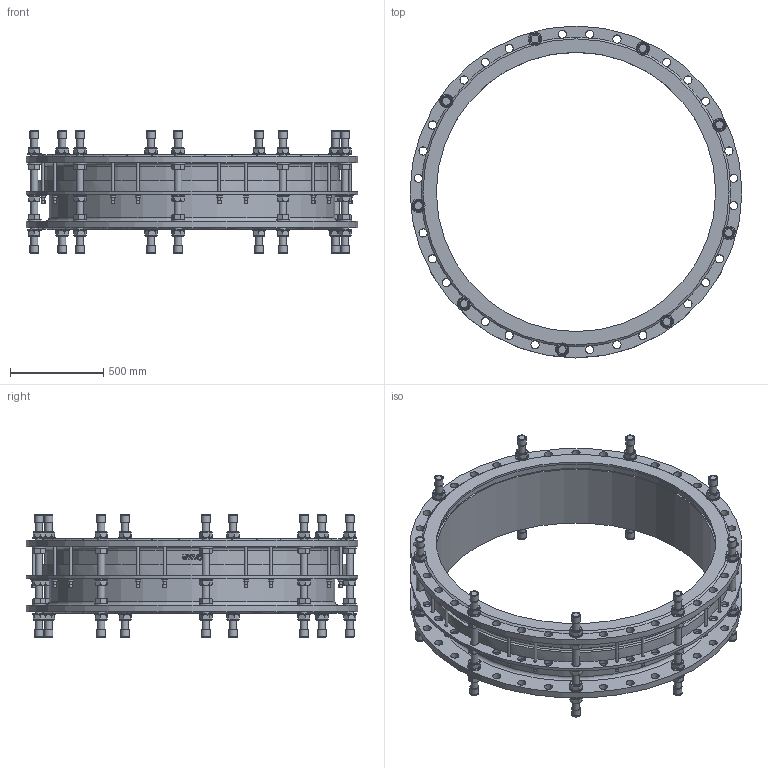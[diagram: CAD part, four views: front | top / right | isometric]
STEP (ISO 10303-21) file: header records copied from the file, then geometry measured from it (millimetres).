
FILE_DESCRIPTION(('STEP AP242'), '1');
FILE_NAME('Ìîíòàæíàÿ âñòàâêà', '', ('UNSPECIFIED'), ('UNSPECIFIED'), 'C3D Converter', 'C3D Toolkit', '');
FILE_SCHEMA(('AP242_MANAGED_MODEL_BASED_3D_ENGINEERING_MIM_LF { 1 0 10303 442 1 1 4 }'));
Length unit declared in the file: millimetre
Products named in the file (13): ШМ.М16.310; ШМ.М16.206
Assembly tree (193 placements, depth 2):
  (unnamed)
    (unnamed)
    (unnamed)
    (unnamed)
    (unnamed)
    (unnamed)  x45
    (unnamed)  x45
    ШМ.М16.310  x9
    (unnamed)  x18
    (unnamed)  x18
    (unnamed)  x18
    ШМ.М16.206  x18
    (unnamed)  x18
Bounding box: 1782 x 1782 x 657.8 mm (x, y, z)
Volume: 120406696.5 mm3; surface area: 12936160.8 mm2
Topology: 197 solids, 197 shells, 1672 faces, 3717 edges, 2392 vertices
Faces by surface type: plane 857, cylinder 454, cone 312, torus 38, extrusion 11
Full cylindrical faces by diameter (mm): 16 x72, 17 x18, 18 x18, 19.2 x18, 30 x18, 33.221 x1, 39 x72, 40 x45, 44 x108, 46.8 x18, 72 x45, 1500 x2, 1534 x2, 1551 x2, 1585 x1, 1602 x1, 1622 x1, 1656 x1, 1782 x3
Entity records: 25796 total; most frequent: CARTESIAN_POINT 11409, DIRECTION 2256, ORIENTED_EDGE 1634, AXIS2_PLACEMENT_3D 1091, EDGE_CURVE 817, EDGE_LOOP 731, VERTEX_POINT 656, CIRCLE 602
